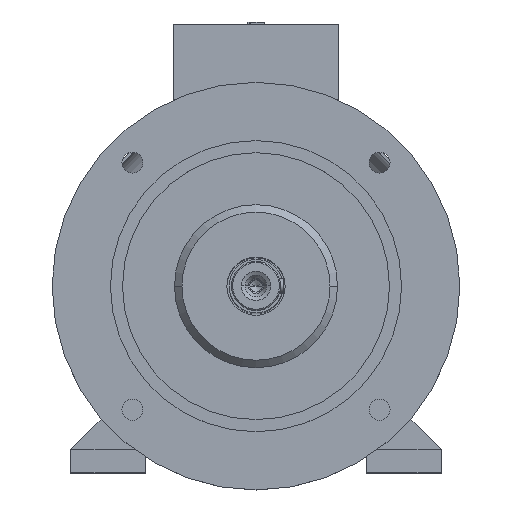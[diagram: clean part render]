
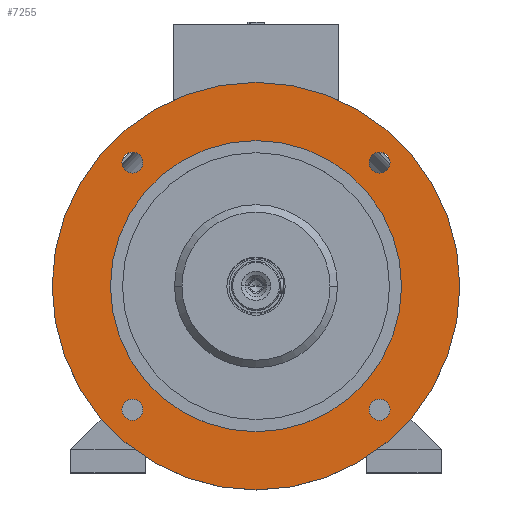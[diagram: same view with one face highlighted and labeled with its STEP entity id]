
A CAD part, top view. The second image highlights one B-rep face of the part: STEP entity #7255.
In plain terms, the highlighted planar face has unit normal (0, 0, 1).
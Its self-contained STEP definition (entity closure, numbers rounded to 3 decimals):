
#43 = ORIENTED_EDGE ( 'NONE', *, *, #16637, .F. ) ;
#73 = EDGE_CURVE ( 'NONE', #14314, #16922, #8232, .T. ) ;
#128 = DIRECTION ( 'NONE',  ( 0., 0., -1. ) ) ;
#488 = CIRCLE ( 'NONE', #17019, 9. ) ;
#552 = VERTEX_POINT ( 'NONE', #9464 ) ;
#679 = FACE_BOUND ( 'NONE', #8470, .T. ) ;
#934 = CARTESIAN_POINT ( 'NONE',  ( -115.066, -106.066, 213. ) ) ;
#1062 = VERTEX_POINT ( 'NONE', #3918 ) ;
#1270 = CARTESIAN_POINT ( 'NONE',  ( -106.066, 106.066, 213. ) ) ;
#1395 = CARTESIAN_POINT ( 'NONE',  ( 106.066, 106.066, 213. ) ) ;
#1432 = EDGE_CURVE ( 'NONE', #6230, #14233, #488, .T. ) ;
#1784 = DIRECTION ( 'NONE',  ( 0., 0., 1. ) ) ;
#1833 = ORIENTED_EDGE ( 'NONE', *, *, #73, .F. ) ;
#1978 = CIRCLE ( 'NONE', #2919, 9. ) ;
#2703 = DIRECTION ( 'NONE',  ( 0., 0., 1. ) ) ;
#2919 = AXIS2_PLACEMENT_3D ( 'NONE', #1270, #2703, #5184 ) ;
#2987 = AXIS2_PLACEMENT_3D ( 'NONE', #8110, #128, #9439 ) ;
#3141 = PLANE ( 'NONE',  #7391 ) ;
#3333 = CARTESIAN_POINT ( 'NONE',  ( -97.066, -106.066, 213. ) ) ;
#3578 = EDGE_CURVE ( 'NONE', #16922, #14314, #16654, .T. ) ;
#3591 = VERTEX_POINT ( 'NONE', #3930 ) ;
#3918 = CARTESIAN_POINT ( 'NONE',  ( 115.066, -106.066, 213. ) ) ;
#3930 = CARTESIAN_POINT ( 'NONE',  ( -115.066, 106.066, 213. ) ) ;
#3939 = EDGE_LOOP ( 'NONE', ( #10398, #5066 ) ) ;
#3940 = DIRECTION ( 'NONE',  ( 0., 0., 1. ) ) ;
#4012 = AXIS2_PLACEMENT_3D ( 'NONE', #13066, #14429, #13416 ) ;
#4052 = DIRECTION ( 'NONE',  ( 0., 0., 1. ) ) ;
#4492 = CIRCLE ( 'NONE', #6489, 175. ) ;
#4499 = CARTESIAN_POINT ( 'NONE',  ( 106.066, -106.066, 213. ) ) ;
#4550 = VERTEX_POINT ( 'NONE', #12394 ) ;
#5066 = ORIENTED_EDGE ( 'NONE', *, *, #1432, .F. ) ;
#5173 = EDGE_CURVE ( 'NONE', #4550, #13284, #11150, .T. ) ;
#5184 = DIRECTION ( 'NONE',  ( -1., 0., 0. ) ) ;
#5281 = CARTESIAN_POINT ( 'NONE',  ( 106.066, 106.066, 213. ) ) ;
#5297 = CARTESIAN_POINT ( 'NONE',  ( -97.066, 106.066, 213. ) ) ;
#5571 = DIRECTION ( 'NONE',  ( 0., 1., 0. ) ) ;
#5652 = FACE_BOUND ( 'NONE', #6437, .T. ) ;
#5783 = EDGE_CURVE ( 'NONE', #13284, #4550, #15688, .T. ) ;
#6187 = AXIS2_PLACEMENT_3D ( 'NONE', #1395, #4052, #15997 ) ;
#6202 = ORIENTED_EDGE ( 'NONE', *, *, #3578, .F. ) ;
#6208 = DIRECTION ( 'NONE',  ( -1., 0., 0. ) ) ;
#6230 = VERTEX_POINT ( 'NONE', #934 ) ;
#6437 = EDGE_LOOP ( 'NONE', ( #11303, #7285 ) ) ;
#6489 = AXIS2_PLACEMENT_3D ( 'NONE', #17021, #14378, #6208 ) ;
#6559 = DIRECTION ( 'NONE',  ( -1., 0., 0. ) ) ;
#6765 = CARTESIAN_POINT ( 'NONE',  ( -106.066, 106.066, 213. ) ) ;
#6838 = AXIS2_PLACEMENT_3D ( 'NONE', #4499, #1784, #7259 ) ;
#7176 = AXIS2_PLACEMENT_3D ( 'NONE', #7546, #12977, #6559 ) ;
#7191 = ORIENTED_EDGE ( 'NONE', *, *, #9254, .F. ) ;
#7255 = ADVANCED_FACE ( 'NONE', ( #15462, #5652, #679, #9839, #11931, #14439 ), #3141, .T. ) ;
#7259 = DIRECTION ( 'NONE',  ( 1., 0., 0. ) ) ;
#7285 = ORIENTED_EDGE ( 'NONE', *, *, #17205, .F. ) ;
#7391 = AXIS2_PLACEMENT_3D ( 'NONE', #8689, #14026, #7396 ) ;
#7396 = DIRECTION ( 'NONE',  ( 1., 0., 0. ) ) ;
#7546 = CARTESIAN_POINT ( 'NONE',  ( 0., 0., 213. ) ) ;
#7569 = EDGE_CURVE ( 'NONE', #14233, #6230, #7745, .T. ) ;
#7745 = CIRCLE ( 'NONE', #13398, 9. ) ;
#8110 = CARTESIAN_POINT ( 'NONE',  ( 0., 0., 213. ) ) ;
#8232 = CIRCLE ( 'NONE', #12509, 9. ) ;
#8470 = EDGE_LOOP ( 'NONE', ( #1833, #6202 ) ) ;
#8578 = DIRECTION ( 'NONE',  ( 0., -1., 0. ) ) ;
#8689 = CARTESIAN_POINT ( 'NONE',  ( 0., 175., 213. ) ) ;
#9196 = CARTESIAN_POINT ( 'NONE',  ( -106.066, -106.066, 213. ) ) ;
#9254 = EDGE_CURVE ( 'NONE', #1062, #15745, #9773, .T. ) ;
#9255 = EDGE_CURVE ( 'NONE', #11787, #552, #12266, .T. ) ;
#9439 = DIRECTION ( 'NONE',  ( -1., 0., 0. ) ) ;
#9457 = ORIENTED_EDGE ( 'NONE', *, *, #9255, .F. ) ;
#9464 = CARTESIAN_POINT ( 'NONE',  ( 175., 0., 213. ) ) ;
#9500 = AXIS2_PLACEMENT_3D ( 'NONE', #16021, #14515, #13329 ) ;
#9773 = CIRCLE ( 'NONE', #6838, 9. ) ;
#9839 = FACE_BOUND ( 'NONE', #14500, .T. ) ;
#10398 = ORIENTED_EDGE ( 'NONE', *, *, #7569, .F. ) ;
#10502 = CARTESIAN_POINT ( 'NONE',  ( 115.066, 106.066, 213. ) ) ;
#10942 = CARTESIAN_POINT ( 'NONE',  ( 97.066, 106.066, 213. ) ) ;
#11150 = CIRCLE ( 'NONE', #2987, 125. ) ;
#11204 = DIRECTION ( 'NONE',  ( 0., 0., 1. ) ) ;
#11303 = ORIENTED_EDGE ( 'NONE', *, *, #13972, .F. ) ;
#11787 = VERTEX_POINT ( 'NONE', #16626 ) ;
#11931 = FACE_BOUND ( 'NONE', #12422, .T. ) ;
#12007 = DIRECTION ( 'NONE',  ( 0., 0., 1. ) ) ;
#12214 = VERTEX_POINT ( 'NONE', #5297 ) ;
#12266 = CIRCLE ( 'NONE', #7176, 175. ) ;
#12353 = ORIENTED_EDGE ( 'NONE', *, *, #5783, .T. ) ;
#12370 = CARTESIAN_POINT ( 'NONE',  ( 97.066, -106.066, 213. ) ) ;
#12394 = CARTESIAN_POINT ( 'NONE',  ( -125., 0., 213. ) ) ;
#12422 = EDGE_LOOP ( 'NONE', ( #16432, #12353 ) ) ;
#12509 = AXIS2_PLACEMENT_3D ( 'NONE', #5281, #12007, #5571 ) ;
#12977 = DIRECTION ( 'NONE',  ( 0., 0., -1. ) ) ;
#13066 = CARTESIAN_POINT ( 'NONE',  ( 0., 0., 213. ) ) ;
#13284 = VERTEX_POINT ( 'NONE', #17174 ) ;
#13329 = DIRECTION ( 'NONE',  ( 1., 0., 0. ) ) ;
#13373 = EDGE_LOOP ( 'NONE', ( #9457, #43 ) ) ;
#13398 = AXIS2_PLACEMENT_3D ( 'NONE', #9196, #3940, #15182 ) ;
#13416 = DIRECTION ( 'NONE',  ( -1., 0., 0. ) ) ;
#13466 = DIRECTION ( 'NONE',  ( -1., 0., 0. ) ) ;
#13959 = CIRCLE ( 'NONE', #9500, 9. ) ;
#13972 = EDGE_CURVE ( 'NONE', #12214, #3591, #14614, .T. ) ;
#14026 = DIRECTION ( 'NONE',  ( 0., 0., 1. ) ) ;
#14233 = VERTEX_POINT ( 'NONE', #3333 ) ;
#14314 = VERTEX_POINT ( 'NONE', #10502 ) ;
#14342 = EDGE_CURVE ( 'NONE', #15745, #1062, #13959, .T. ) ;
#14378 = DIRECTION ( 'NONE',  ( 0., 0., -1. ) ) ;
#14429 = DIRECTION ( 'NONE',  ( 0., 0., -1. ) ) ;
#14439 = FACE_OUTER_BOUND ( 'NONE', #13373, .T. ) ;
#14500 = EDGE_LOOP ( 'NONE', ( #7191, #15715 ) ) ;
#14515 = DIRECTION ( 'NONE',  ( 0., 0., 1. ) ) ;
#14614 = CIRCLE ( 'NONE', #15827, 9. ) ;
#15182 = DIRECTION ( 'NONE',  ( 0., -1., 0. ) ) ;
#15462 = FACE_BOUND ( 'NONE', #3939, .T. ) ;
#15688 = CIRCLE ( 'NONE', #4012, 125. ) ;
#15715 = ORIENTED_EDGE ( 'NONE', *, *, #14342, .F. ) ;
#15745 = VERTEX_POINT ( 'NONE', #12370 ) ;
#15827 = AXIS2_PLACEMENT_3D ( 'NONE', #6765, #16097, #13466 ) ;
#15997 = DIRECTION ( 'NONE',  ( 0., 1., 0. ) ) ;
#16021 = CARTESIAN_POINT ( 'NONE',  ( 106.066, -106.066, 213. ) ) ;
#16097 = DIRECTION ( 'NONE',  ( 0., 0., 1. ) ) ;
#16432 = ORIENTED_EDGE ( 'NONE', *, *, #5173, .T. ) ;
#16626 = CARTESIAN_POINT ( 'NONE',  ( -175., 0., 213. ) ) ;
#16637 = EDGE_CURVE ( 'NONE', #552, #11787, #4492, .T. ) ;
#16654 = CIRCLE ( 'NONE', #6187, 9. ) ;
#16656 = CARTESIAN_POINT ( 'NONE',  ( -106.066, -106.066, 213. ) ) ;
#16922 = VERTEX_POINT ( 'NONE', #10942 ) ;
#17019 = AXIS2_PLACEMENT_3D ( 'NONE', #16656, #11204, #8578 ) ;
#17021 = CARTESIAN_POINT ( 'NONE',  ( 0., 0., 213. ) ) ;
#17174 = CARTESIAN_POINT ( 'NONE',  ( 125., 0., 213. ) ) ;
#17205 = EDGE_CURVE ( 'NONE', #3591, #12214, #1978, .T. ) ;
